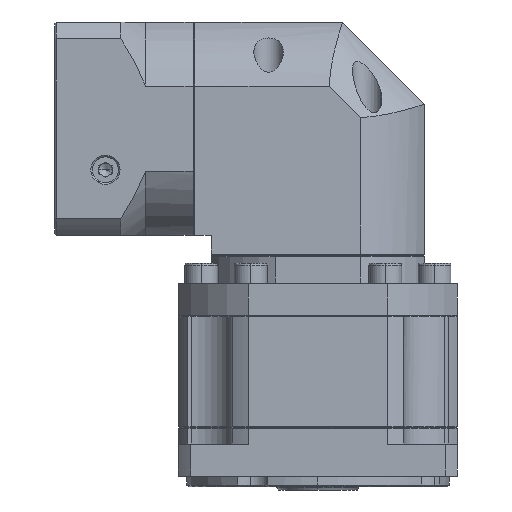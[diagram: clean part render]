
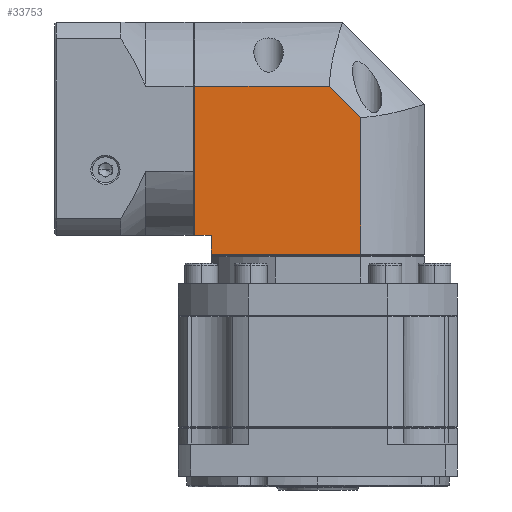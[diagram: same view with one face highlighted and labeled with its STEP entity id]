
A CAD part, left-side view. The second image highlights one B-rep face of the part: STEP entity #33753.
In plain terms, the highlighted planar face has unit normal (-1, 0, 0).
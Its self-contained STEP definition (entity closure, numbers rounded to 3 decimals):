
#538 = CARTESIAN_POINT ( 'NONE',  ( -101.755, 59.689, -29.288 ) ) ;
#1529 = VECTOR ( 'NONE', #16926, 1000. ) ;
#2265 = EDGE_LOOP ( 'NONE', ( #130955, #3633, #26612, #103535, #97877, #37790, #85470 ) ) ;
#3633 = ORIENTED_EDGE ( 'NONE', *, *, #79049, .F. ) ;
#6703 = VECTOR ( 'NONE', #69497, 1000. ) ;
#6708 = CARTESIAN_POINT ( 'NONE',  ( -101.755, 14.198, 6.705 ) ) ;
#7076 = EDGE_CURVE ( 'NONE', #28562, #58117, #132956, .T. ) ;
#10294 = LINE ( 'NONE', #124659, #116003 ) ;
#10387 = VECTOR ( 'NONE', #34589, 1000. ) ;
#12994 = EDGE_CURVE ( 'NONE', #60307, #56102, #102677, .T. ) ;
#16302 = LINE ( 'NONE', #110203, #6703 ) ;
#16926 = DIRECTION ( 'NONE',  ( 0., 0., -1. ) ) ;
#25588 = CARTESIAN_POINT ( 'NONE',  ( -101.755, 64.689, 16.203 ) ) ;
#26612 = ORIENTED_EDGE ( 'NONE', *, *, #42927, .T. ) ;
#26933 = CARTESIAN_POINT ( 'NONE',  ( -101.755, -5.311, -39.288 ) ) ;
#28562 = VERTEX_POINT ( 'NONE', #6708 ) ;
#31596 = CARTESIAN_POINT ( 'NONE',  ( -101.755, 59.689, -34.988 ) ) ;
#33359 = VERTEX_POINT ( 'NONE', #81232 ) ;
#33586 = LINE ( 'NONE', #55759, #46372 ) ;
#33753 = ADVANCED_FACE ( 'NONE', ( #103341 ), #57833, .T. ) ;
#34589 = DIRECTION ( 'NONE',  ( 0., -0.707, -0.707 ) ) ;
#37039 = VECTOR ( 'NONE', #65204, 1000. ) ;
#37458 = AXIS2_PLACEMENT_3D ( 'NONE', #26933, #47921, #100258 ) ;
#37606 = LINE ( 'NONE', #116955, #10387 ) ;
#37790 = ORIENTED_EDGE ( 'NONE', *, *, #84596, .T. ) ;
#41467 = CARTESIAN_POINT ( 'NONE',  ( -101.755, 23.696, 16.203 ) ) ;
#42927 = EDGE_CURVE ( 'NONE', #48130, #33359, #16302, .T. ) ;
#46372 = VECTOR ( 'NONE', #85747, 1000. ) ;
#47921 = DIRECTION ( 'NONE',  ( -1., 0., 0. ) ) ;
#48130 = VERTEX_POINT ( 'NONE', #25588 ) ;
#55231 = VERTEX_POINT ( 'NONE', #41467 ) ;
#55759 = CARTESIAN_POINT ( 'NONE',  ( -101.755, -5.311, -34.988 ) ) ;
#56102 = VERTEX_POINT ( 'NONE', #538 ) ;
#57833 = PLANE ( 'NONE',  #37458 ) ;
#58117 = VERTEX_POINT ( 'NONE', #94689 ) ;
#60307 = VERTEX_POINT ( 'NONE', #31596 ) ;
#65204 = DIRECTION ( 'NONE',  ( 0., -1., 0. ) ) ;
#69497 = DIRECTION ( 'NONE',  ( 0., 0., -1. ) ) ;
#75487 = VECTOR ( 'NONE', #129025, 1000. ) ;
#79049 = EDGE_CURVE ( 'NONE', #48130, #55231, #86777, .T. ) ;
#81232 = CARTESIAN_POINT ( 'NONE',  ( -101.755, 64.689, -29.288 ) ) ;
#82666 = DIRECTION ( 'NONE',  ( 0., 1., 0. ) ) ;
#84596 = EDGE_CURVE ( 'NONE', #60307, #58117, #33586, .T. ) ;
#85470 = ORIENTED_EDGE ( 'NONE', *, *, #7076, .F. ) ;
#85747 = DIRECTION ( 'NONE',  ( 0., -1., 0. ) ) ;
#86777 = LINE ( 'NONE', #126966, #37039 ) ;
#88276 = CARTESIAN_POINT ( 'NONE',  ( -101.755, 59.689, -39.288 ) ) ;
#94661 = EDGE_CURVE ( 'NONE', #55231, #28562, #37606, .T. ) ;
#94689 = CARTESIAN_POINT ( 'NONE',  ( -101.755, 14.198, -34.988 ) ) ;
#97877 = ORIENTED_EDGE ( 'NONE', *, *, #12994, .F. ) ;
#100258 = DIRECTION ( 'NONE',  ( 0., 0., -1. ) ) ;
#102677 = LINE ( 'NONE', #88276, #75487 ) ;
#103341 = FACE_OUTER_BOUND ( 'NONE', #2265, .T. ) ;
#103535 = ORIENTED_EDGE ( 'NONE', *, *, #126073, .F. ) ;
#110203 = CARTESIAN_POINT ( 'NONE',  ( -101.755, 64.689, -29.288 ) ) ;
#116003 = VECTOR ( 'NONE', #82666, 1000. ) ;
#116955 = CARTESIAN_POINT ( 'NONE',  ( -101.755, -347.106, -354.599 ) ) ;
#119497 = CARTESIAN_POINT ( 'NONE',  ( -101.755, 14.198, 35.712 ) ) ;
#124659 = CARTESIAN_POINT ( 'NONE',  ( -101.755, -5.311, -29.288 ) ) ;
#126073 = EDGE_CURVE ( 'NONE', #56102, #33359, #10294, .T. ) ;
#126966 = CARTESIAN_POINT ( 'NONE',  ( -101.755, -5.311, 16.203 ) ) ;
#129025 = DIRECTION ( 'NONE',  ( 0., 0., 1. ) ) ;
#130955 = ORIENTED_EDGE ( 'NONE', *, *, #94661, .F. ) ;
#132956 = LINE ( 'NONE', #119497, #1529 ) ;
